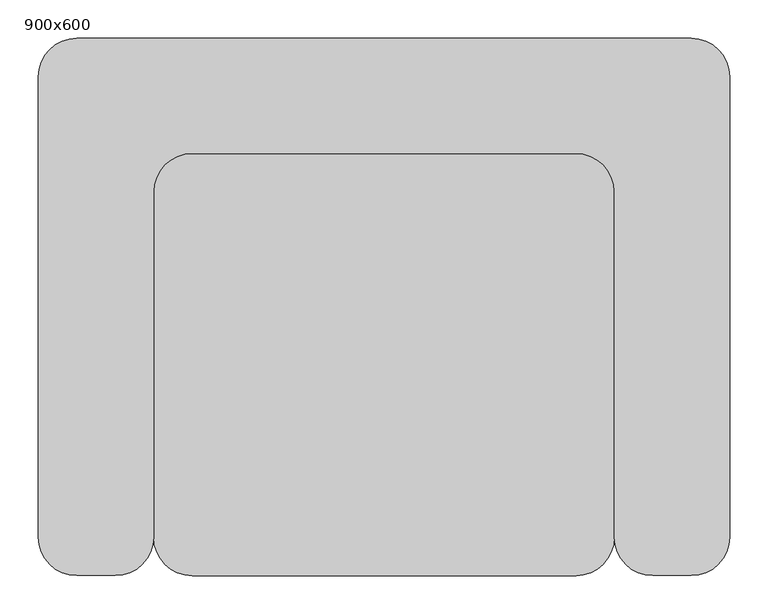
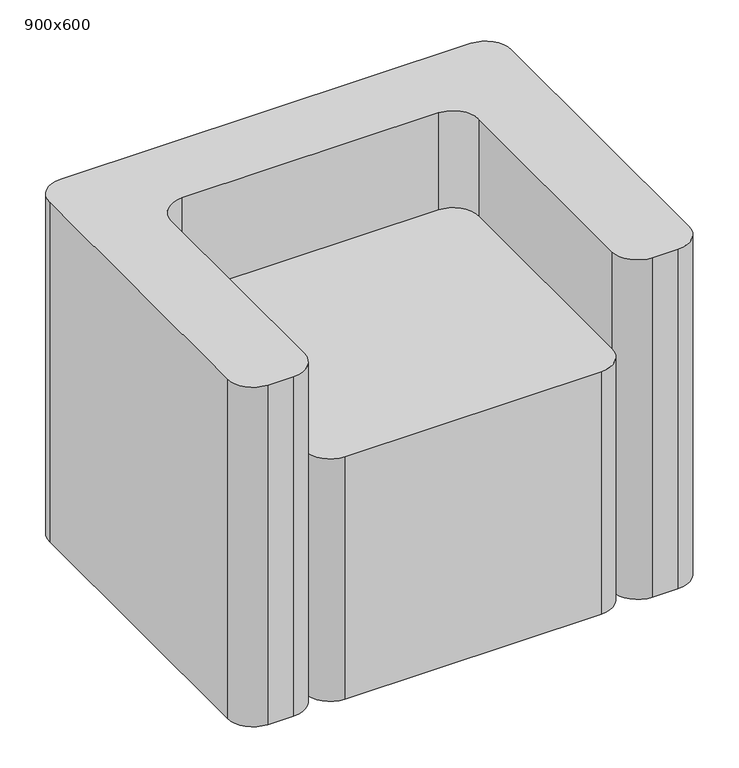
"""IFC4 building model written with IfcOpenShell, lengths in millimetres: furniture geometry, Fu_кресло_большое_LEG : 900x600."""

from ifc_helpers import new_model, si_unit, point, frame_2d, origin, origin_with_axes, place, context, project, spatial, polyline, circle_curve, trimmed, segment, composite_curve, outline, extrude, source, transform, mapped, element, save


def furniture_900x600_407b2405(model_context):
    return source(origin(), model_context, "Body", "SweptSolid", [
        extrude(outline(composite_curve([segment(trimmed(circle_curve(frame_2d((-135.7, 349.9263613)), 50.0), [point((-185.7, 349.9263613))], [point((-135.7, 399.9263613))], False, "CARTESIAN"), True, "CONTINUOUS"), segment(polyline([(-135.7, 399.9263613), (364.3, 399.9263613)]), True, "CONTINUOUS"), segment(trimmed(circle_curve(frame_2d((364.3, 349.9263613)), 50.0), [point((364.3, 399.9263613))], [point((414.3, 349.9263613))], False, "CARTESIAN"), True, "CONTINUOUS"), segment(polyline([(414.3, 349.9263613), (414.3, -100.0736387)]), True, "CONTINUOUS"), segment(trimmed(circle_curve(frame_2d((364.3, -100.0736387)), 50.0), [point((414.3, -100.0736387))], [point((364.3, -150.0736387))], False, "CARTESIAN"), True, "CONTINUOUS"), segment(polyline([(364.3, -150.0736387), (-135.7, -150.0736387)]), True, "CONTINUOUS"), segment(trimmed(circle_curve(frame_2d((-135.7, -100.0736387)), 50.0), [point((-135.7, -150.0736387))], [point((-185.7, -100.0736387))], False, "CARTESIAN"), True, "CONTINUOUS"), segment(polyline([(-185.7, -100.0736387), (-185.7, 349.9263613)]), True, "CONTINUOUS")], self_intersect=False)), origin_with_axes(), (0.0, 0.0, 1.0), 500.0),
        extrude(outline(composite_curve([segment(trimmed(circle_curve(frame_2d((514.3, 499.9263613)), 50.0), [point((514.3, 549.9263613))], [point((564.3, 499.9263613))], False, "CARTESIAN"), True, "CONTINUOUS"), segment(polyline([(564.3, 499.9263613), (564.3, -100.0736387)]), True, "CONTINUOUS"), segment(trimmed(circle_curve(frame_2d((514.3, -100.0736387)), 50.0), [point((564.3, -100.0736387))], [point((514.3, -150.0736387))], False, "CARTESIAN"), True, "CONTINUOUS"), segment(polyline([(514.3, -150.0736387), (464.3, -150.0736387)]), True, "CONTINUOUS"), segment(trimmed(circle_curve(frame_2d((464.3, -100.0736387)), 50.0), [point((464.3, -150.0736387))], [point((414.3, -100.0736387))], False, "CARTESIAN"), True, "CONTINUOUS"), segment(polyline([(414.3, -100.0736387), (414.3, 349.9263613)]), True, "CONTINUOUS"), segment(trimmed(circle_curve(frame_2d((364.3, 349.9263613)), 50.0), [point((414.3, 349.9263613))], [point((364.3, 399.9263613))], True, "CARTESIAN"), True, "CONTINUOUS"), segment(polyline([(364.3, 399.9263613), (-135.7, 399.9263613)]), True, "CONTINUOUS"), segment(trimmed(circle_curve(frame_2d((-135.7, 349.9263613)), 50.0), [point((-135.7, 399.9263613))], [point((-185.7, 349.9263613))], True, "CARTESIAN"), True, "CONTINUOUS"), segment(polyline([(-185.7, 349.9263613), (-185.7, -100.0736387)]), True, "CONTINUOUS"), segment(trimmed(circle_curve(frame_2d((-235.7, -100.0736387)), 50.0), [point((-185.7, -100.0736387))], [point((-235.7, -150.0736387))], False, "CARTESIAN"), True, "CONTINUOUS"), segment(polyline([(-235.7, -150.0736387), (-285.7, -150.0736387)]), True, "CONTINUOUS"), segment(trimmed(circle_curve(frame_2d((-285.7, -100.0736387)), 50.0), [point((-285.7, -150.0736387))], [point((-335.7, -100.0736387))], False, "CARTESIAN"), True, "CONTINUOUS"), segment(polyline([(-335.7, -100.0736387), (-335.7, 499.9263613)]), True, "CONTINUOUS"), segment(trimmed(circle_curve(frame_2d((-285.7, 499.9263613)), 50.0), [point((-335.7, 499.9263613))], [point((-285.7, 549.9263613))], False, "CARTESIAN"), True, "CONTINUOUS"), segment(polyline([(-285.7, 549.9263613), (514.3, 549.9263613)]), True, "CONTINUOUS")], self_intersect=False)), origin_with_axes(), (0.0, 0.0, 1.0), 700.0),
    ])


if __name__ == "__main__":
    model = new_model("IFC4")
    model_context = context("Model", 3, world=origin())
    ifc_project = project(units=[si_unit("LENGTHUNIT", "METRE", prefix="MILLI")], contexts=[model_context])
    site = spatial("IfcSite", under=ifc_project)
    building = spatial("IfcBuilding", under=site)
    placement = place(None, origin())
    furniture_900x600_shape = furniture_900x600_407b2405(model_context)
    element("IfcFurniture", 1, ObjectType="Fu_кресло_большое_LEG : 900x600", at=placement, inside=building, context=model_context, shape_type="MappedRepresentation", body=[
        mapped(furniture_900x600_shape, transform((0.0, 0.0, 0.0), x_axis=(1.0, 0.0, 0.0), y_axis=(0.0, 1.0, 0.0), z_axis=(0.0, 0.0, 1.0))),
    ])
    save(model, "model.ifc")
